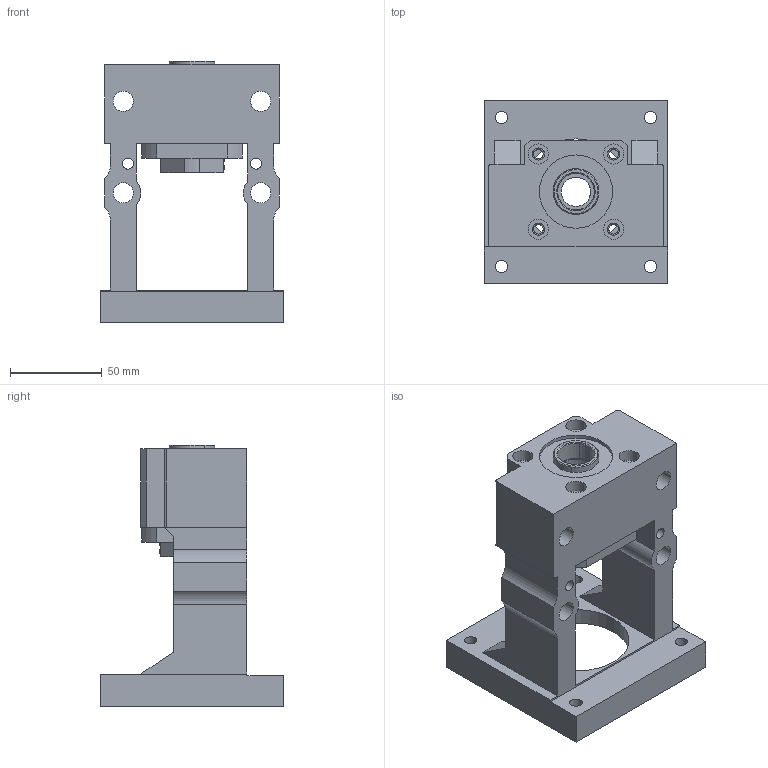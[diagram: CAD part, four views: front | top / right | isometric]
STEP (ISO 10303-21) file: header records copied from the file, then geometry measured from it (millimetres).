
FILE_DESCRIPTION((''),'2;1');
FILE_NAME('M100Y-EK20-C_ASM','2019-04-19T',('ASUS'),(''),'PRO/ENGINEER BY PARAMETRIC TECHNOLOGY CORPORATION, 2010280','PRO/ENGINEER BY PARAMETRIC TECHNOLOGY CORPORATION, 2010280','');
FILE_SCHEMA(('CONFIG_CONTROL_DESIGN'));
Length unit declared in the file: millimetre
Products named in the file (6): EK20-02; MBCF20-X-02; NRA_M20X1; MANIFOLD_SOLID_BREP_458; MBCF20-Y_ASM; M100Y-EK20-C_ASM
Assembly tree (6 placements, depth 3):
  M100Y-EK20-C_ASM
    MBCF20-Y_ASM
      EK20-02  x2
      MBCF20-X-02
      NRA_M20X1
      MANIFOLD_SOLID_BREP_458
Bounding box: 100 x 100 x 143 mm (x, y, z)
Volume: 381089.4 mm3; surface area: 93959.6 mm2
Topology: 5 solids, 5 shells, 186 faces, 486 edges, 324 vertices
Faces by surface type: cylinder 102, plane 68, cone 16
Entity records: 5857 total; most frequent: CARTESIAN_POINT 1083, DIRECTION 1044, ORIENTED_EDGE 916, EDGE_CURVE 458, AXIS2_PLACEMENT_3D 405, VERTEX_POINT 308, EDGE_LOOP 238, VECTOR 234
